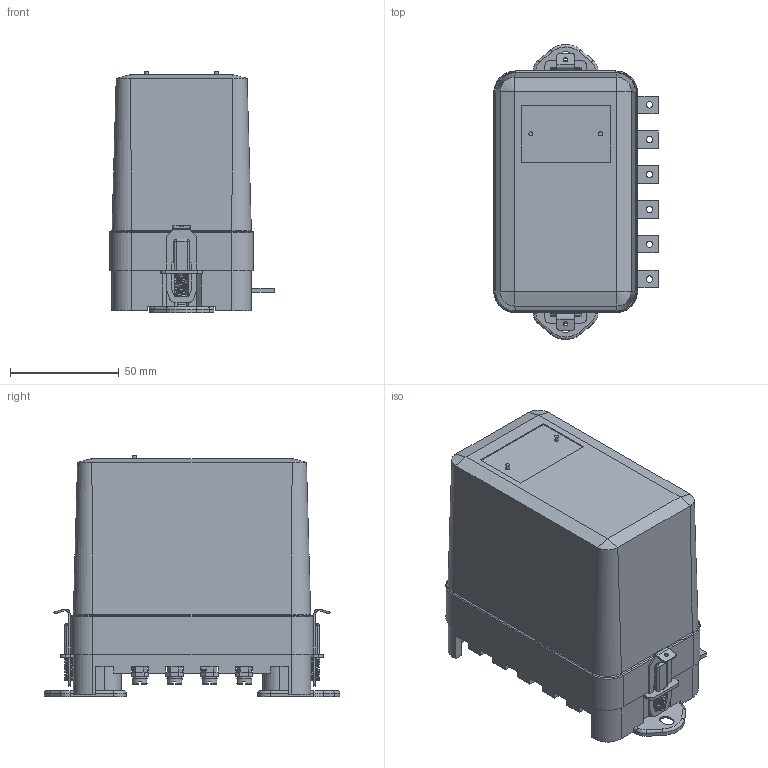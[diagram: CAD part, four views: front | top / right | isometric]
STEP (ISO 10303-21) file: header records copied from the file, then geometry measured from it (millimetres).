
FILE_DESCRIPTION(('STEP AP214'), '1');
FILE_NAME('ÐÑÂ-01-1 ï.ï', '', ('UNSPECIFIED'), ('UNSPECIFIED'), 'ASCON STEP Converter 1.3', 'ASCON Math Kernel', '');
FILE_SCHEMA(('AUTOMOTIVE_DESIGN { 1 0 10303 214 3 1 1}'));
Length unit declared in the file: millimetre
Bounding box: 75.5 x 135.6 x 110.8 mm (x, y, z)
Volume: 137910.9 mm3; surface area: 103829.6 mm2
Topology: 1 solids, 1 shells, 1128 faces, 3083 edges, 1943 vertices
Faces by surface type: plane 709, cylinder 285, torus 76, bspline 30, cone 22, sphere 6
Full cylindrical faces by diameter (mm): 1.9 x2, 2 x2, 2.917 x6, 3 x4, 3.2 x4, 3.242 x6, 3.4 x4, 3.5 x2, 4 x12, 4.3 x6, 5.5 x2, 6 x4
Entity records: 56030 total; most frequent: CARTESIAN_POINT 18764, ORIENTED_EDGE 5922, DIRECTION 5709, EDGE_CURVE 2961, VERTEX_POINT 1937, LINE 1927, VECTOR 1927, AXIS2_PLACEMENT_3D 1891
